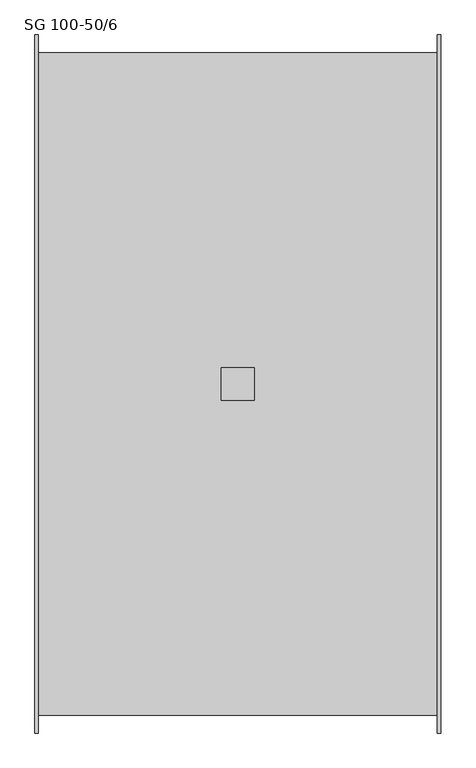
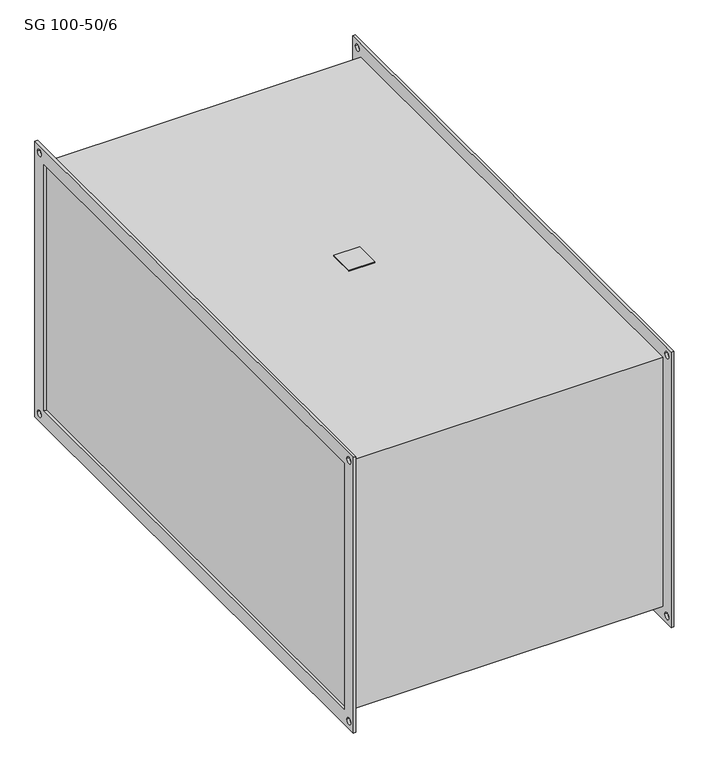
"""IFC4 building model written with IfcOpenShell, lengths in millimetres: damper geometry, KORF_Шумоглушитель_SG : SG 100-50/6."""

from ifc_helpers import new_model, si_unit, point, frame, frame_2d, origin, place, context, project, spatial, polyline, circle_curve, trimmed, segment, composite_curve, outline, extrude, source, transform, mapped, element, save


def sg_100_50_6_c8bbc382(model_context):
    return source(origin(), model_context, "Body", "SweptSolid", [
        extrude(outline(polyline([(283.0, -25.0), (283.0, 25.0), (333.0, 25.0), (333.0, -25.0), (283.0, -25.0)])), frame((0.0, 0.0, 253.0), z_axis=(0.0, 0.0, 1.0), x_axis=(1.0, 0.0, 0.0)), (0.0, 0.0, 1.0), 2.0),
        extrude(outline(polyline([(-530.0, 280.0), (530.0, 280.0), (530.0, -280.0), (-530.0, -280.0), (-530.0, 280.0)]), holes=[polyline([(-500.0, 250.0), (-500.0, -250.0), (500.0, -250.0), (500.0, 250.0), (-500.0, 250.0)]), composite_curve([segment(trimmed(circle_curve(frame_2d((515.0, 265.0)), 6.5), [point((508.5, 265.0))], [point((521.5, 265.0))], True, "CARTESIAN"), True, "CONTINUOUS"), segment(trimmed(circle_curve(frame_2d((515.0, 265.0)), 6.5), [point((521.5, 265.0))], [point((508.5, 265.0))], True, "CARTESIAN"), True, "CONTINUOUS")], self_intersect=False), composite_curve([segment(trimmed(circle_curve(frame_2d((-515.0, 265.0)), 6.5), [point((-521.5, 265.0))], [point((-508.5, 265.0))], True, "CARTESIAN"), True, "CONTINUOUS"), segment(trimmed(circle_curve(frame_2d((-515.0, 265.0)), 6.5), [point((-508.5, 265.0))], [point((-521.5, 265.0))], True, "CARTESIAN"), True, "CONTINUOUS")], self_intersect=False), composite_curve([segment(trimmed(circle_curve(frame_2d((-515.0, -265.0)), 6.5), [point((-521.5, -265.0))], [point((-508.5, -265.0))], True, "CARTESIAN"), True, "CONTINUOUS"), segment(trimmed(circle_curve(frame_2d((-515.0, -265.0)), 6.5), [point((-508.5, -265.0))], [point((-521.5, -265.0))], True, "CARTESIAN"), True, "CONTINUOUS")], self_intersect=False), composite_curve([segment(trimmed(circle_curve(frame_2d((515.0, -265.0)), 6.5), [point((508.5, -265.0))], [point((521.5, -265.0))], True, "CARTESIAN"), True, "CONTINUOUS"), segment(trimmed(circle_curve(frame_2d((515.0, -265.0)), 6.5), [point((521.5, -265.0))], [point((508.5, -265.0))], True, "CARTESIAN"), True, "CONTINUOUS")], self_intersect=False)]), frame((611.0, 0.0, 0.0), z_axis=(1.0, 0.0, 0.0), x_axis=(0.0, 1.0, 0.0)), (0.0, 0.0, 1.0), 5.0),
        extrude(outline(polyline([(-530.0, 280.0), (530.0, 280.0), (530.0, -280.0), (-530.0, -280.0), (-530.0, 280.0)]), holes=[polyline([(-500.0, 250.0), (-500.0, -250.0), (500.0, -250.0), (500.0, 250.0), (-500.0, 250.0)]), composite_curve([segment(trimmed(circle_curve(frame_2d((515.0, 265.0)), 6.5), [point((508.5, 265.0))], [point((521.5, 265.0))], True, "CARTESIAN"), True, "CONTINUOUS"), segment(trimmed(circle_curve(frame_2d((515.0, 265.0)), 6.5), [point((521.5, 265.0))], [point((508.5, 265.0))], True, "CARTESIAN"), True, "CONTINUOUS")], self_intersect=False), composite_curve([segment(trimmed(circle_curve(frame_2d((-515.0, 265.0)), 6.5), [point((-521.5, 265.0))], [point((-508.5, 265.0))], True, "CARTESIAN"), True, "CONTINUOUS"), segment(trimmed(circle_curve(frame_2d((-515.0, 265.0)), 6.5), [point((-508.5, 265.0))], [point((-521.5, 265.0))], True, "CARTESIAN"), True, "CONTINUOUS")], self_intersect=False), composite_curve([segment(trimmed(circle_curve(frame_2d((-515.0, -265.0)), 6.5), [point((-521.5, -265.0))], [point((-508.5, -265.0))], True, "CARTESIAN"), True, "CONTINUOUS"), segment(trimmed(circle_curve(frame_2d((-515.0, -265.0)), 6.5), [point((-508.5, -265.0))], [point((-521.5, -265.0))], True, "CARTESIAN"), True, "CONTINUOUS")], self_intersect=False), composite_curve([segment(trimmed(circle_curve(frame_2d((515.0, -265.0)), 6.5), [point((508.5, -265.0))], [point((521.5, -265.0))], True, "CARTESIAN"), True, "CONTINUOUS"), segment(trimmed(circle_curve(frame_2d((515.0, -265.0)), 6.5), [point((521.5, -265.0))], [point((508.5, -265.0))], True, "CARTESIAN"), True, "CONTINUOUS")], self_intersect=False)]), frame((0.0, 0.0, 0.0), z_axis=(1.0, 0.0, 0.0), x_axis=(0.0, 1.0, 0.0)), (0.0, 0.0, 1.0), 5.0),
        extrude(outline(polyline([(611.0, 503.0), (611.0, -503.0), (5.0, -503.0), (5.0, 503.0), (611.0, 503.0)])), frame((0.0, 0.0, -253.0), z_axis=(0.0, 0.0, 1.0), x_axis=(1.0, 0.0, 0.0)), (0.0, 0.0, 1.0), 506.0),
    ])


if __name__ == "__main__":
    model = new_model("IFC4")
    model_context = context("Model", 3, world=origin())
    ifc_project = project(units=[si_unit("LENGTHUNIT", "METRE", prefix="MILLI")], contexts=[model_context])
    site = spatial("IfcSite", under=ifc_project)
    building = spatial("IfcBuilding", under=site)
    placement = place(None, origin())
    sg_100_50_6_shape = sg_100_50_6_c8bbc382(model_context)
    element("IfcDamper", 1, ObjectType="KORF_Шумоглушитель_SG : SG 100-50/6", at=placement, inside=building, context=model_context, shape_type="MappedRepresentation", body=[
        mapped(sg_100_50_6_shape, transform((0.0, 0.0, 0.0), x_axis=(1.0, 0.0, 0.0), y_axis=(0.0, 1.0, 0.0), z_axis=(0.0, 0.0, 1.0))),
    ])
    save(model, "model.ifc")
